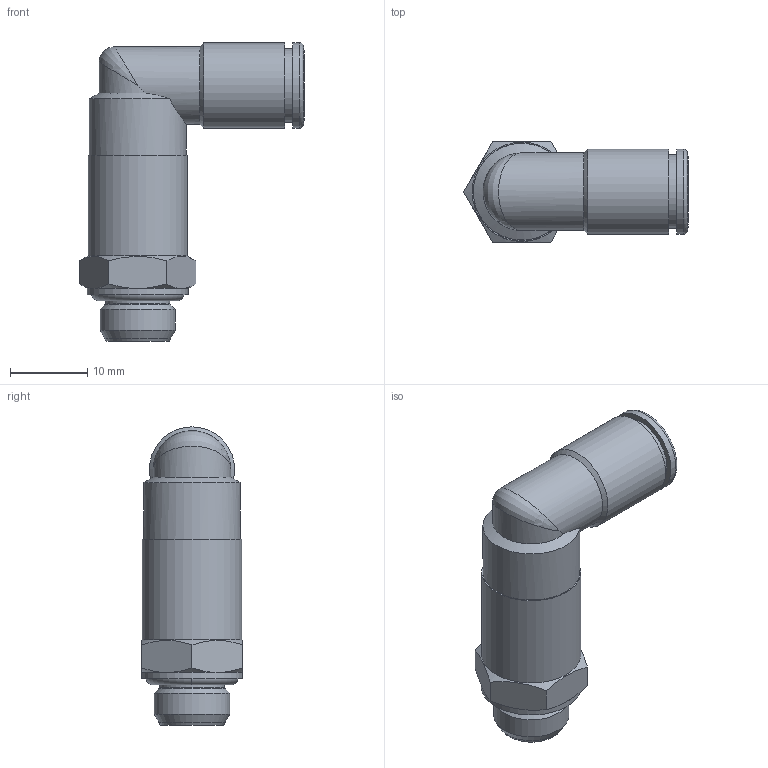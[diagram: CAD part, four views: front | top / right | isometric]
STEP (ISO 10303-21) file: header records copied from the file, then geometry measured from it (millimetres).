
FILE_DESCRIPTION(('Bauteilbeschreibung','HiCAD-Model','HiCAD-STEP-TRANSLATION','Bauteilbeschreibung'),'2;1');
FILE_NAME('B:/ABGLEICH/ZEICHNUNGEN/STEP FÜR INTERNET/STEP/IPSO 026/202603_IPSO_026_6_1-8.STP','2012-02-20T11:59:10+00:00',('Konstrukteur'),('Konstrukteur Firma GmbH'),' HiCAD neXt 2008, Step 3.1.1401.2J ','HiCAD neXt 2008','confidential');
FILE_SCHEMA(('AUTOMOTIVE_DESIGN { 1 2 10303 214 0 1 1 1 }'));
Length unit declared in the file: millimetre
Products named in the file (7): A02603_IPSO_026_6_1_8; DR6_1_NEU; R202203_N2; OR 7_2X1_9; A14612_N2; A146120N2; G 1_8
Assembly tree (6 placements, depth 3):
  A02603_IPSO_026_6_1_8
    DR6_1_NEU
    R202203_N2
    OR 7_2X1_9
    A14612_N2
    A146120N2
      G 1_8
Bounding box: 29.01 x 13 x 38.5 mm (x, y, z)
Volume: 4076.8 mm3; surface area: 4681.7 mm2
Topology: 5 solids, 5 shells, 78 faces, 168 edges, 100 vertices
Faces by surface type: cone 27, cylinder 24, plane 19, torus 7, bspline 1
Full cylindrical faces by diameter (mm): 4 x1, 5.5 x1, 6 x1, 6.1 x1, 6.2 x1, 8.3 x2, 8.566 x2, 9 x3, 9.5 x1, 9.6 x1, 9.728 x1, 10 x1, 10.1 x2, 11 x2, 12.5 x1, 12.8 x1, 13 x1
Entity records: 3482 total; most frequent: CARTESIAN_POINT 1448, DIRECTION 332, ORIENTED_EDGE 208, AXIS2_PLACEMENT_3D 163, EDGE_LOOP 137, EDGE_CURVE 104, COLOUR_RGB 95, PRESENTATION_STYLE_ASSIGNMENT 95
